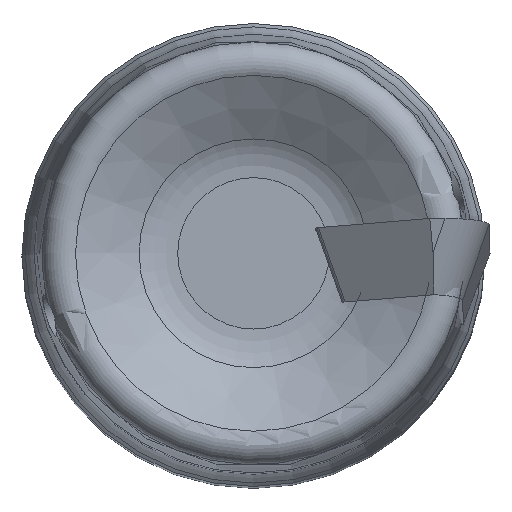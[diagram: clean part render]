
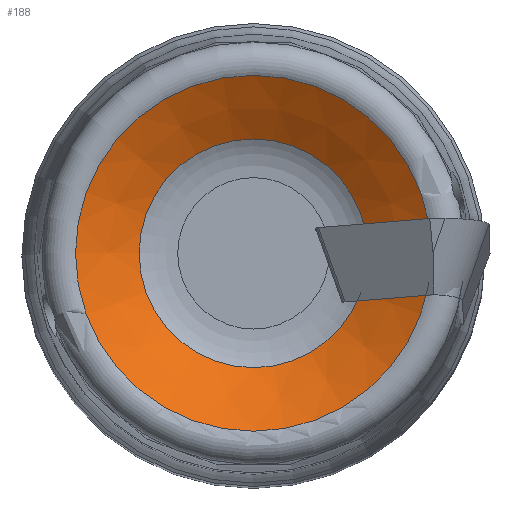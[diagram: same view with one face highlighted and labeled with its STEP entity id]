
A CAD part, top view. The second image highlights one B-rep face of the part: STEP entity #188.
In plain terms, the highlighted conical face has half-angle 58 degrees and reference radius 14.386 mm.
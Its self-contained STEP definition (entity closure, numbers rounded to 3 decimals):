
#188=ADVANCED_FACE('',(#231,#232),#212,.F.);
#212=CONICAL_SURFACE('',#495,14.386,58.);
#231=FACE_BOUND('',#258,.T.);
#232=FACE_BOUND('',#259,.T.);
#258=EDGE_LOOP('',(#304));
#259=EDGE_LOOP('',(#305));
#304=ORIENTED_EDGE('',*,*,#434,.T.);
#305=ORIENTED_EDGE('',*,*,#425,.T.);
#388=VERTEX_POINT('',#694);
#396=VERTEX_POINT('',#877);
#425=EDGE_CURVE('',#388,#388,#471,.T.);
#434=EDGE_CURVE('',#396,#396,#476,.T.);
#471=CIRCLE('',#485,12.205);
#476=CIRCLE('',#494,7.844);
#485=AXIS2_PLACEMENT_3D('',#693,#539,#540);
#494=AXIS2_PLACEMENT_3D('',#876,#557,#558);
#495=AXIS2_PLACEMENT_3D('',#878,#559,#560);
#539=DIRECTION('',(0.,0.,1.));
#540=DIRECTION('',(-1.,0.,0.));
#557=DIRECTION('',(0.,0.,-1.));
#558=DIRECTION('',(1.,0.,0.));
#559=DIRECTION('',(0.,0.,1.));
#560=DIRECTION('',(1.,0.,0.));
#693=CARTESIAN_POINT('',(0.,0.,1.384));
#694=CARTESIAN_POINT('',(-12.205,0.,1.384));
#876=CARTESIAN_POINT('',(0.,0.,-1.34));
#877=CARTESIAN_POINT('',(7.844,0.,-1.34));
#878=CARTESIAN_POINT('',(0.,0.,2.747));
